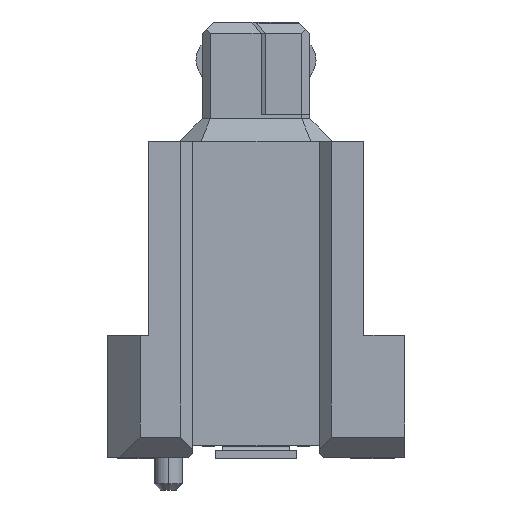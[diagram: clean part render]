
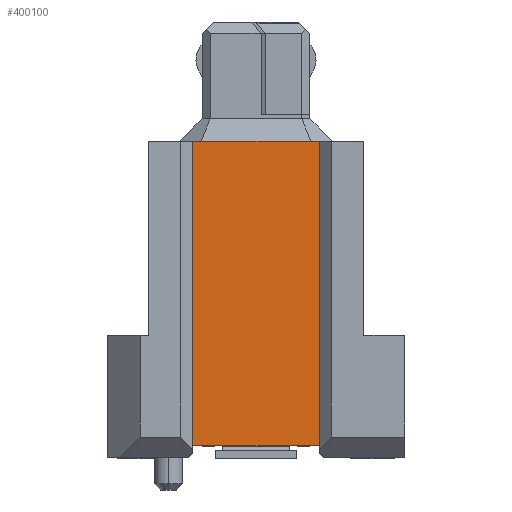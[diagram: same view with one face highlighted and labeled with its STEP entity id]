
A CAD part, left-side view. The second image highlights one B-rep face of the part: STEP entity #400100.
In plain terms, the highlighted planar face has unit normal (-1, 0, 0).
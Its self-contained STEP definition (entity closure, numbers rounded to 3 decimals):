
#195540=CARTESIAN_POINT('',(-0.032,2.41,4.2));
#195550=VERTEX_POINT('',#195540);
#195580=CARTESIAN_POINT('',(-0.032,2.41,0.));
#195590=DIRECTION('',(0.,0.,-1.));
#195600=VECTOR('',#195590,1.);
#195610=LINE('',#195580,#195600);
#195620=CARTESIAN_POINT('',(-0.032,2.41,1.1));
#195630=VERTEX_POINT('',#195620);
#195640=EDGE_CURVE('',#195550,#195630,#195610,.T.);
#382690=CARTESIAN_POINT('',(-0.032,-5.06,4.2));
#382700=VERTEX_POINT('',#382690);
#382730=CARTESIAN_POINT('',(-0.032,0.,4.2));
#382740=DIRECTION('',(0.,-1.,0.));
#382750=VECTOR('',#382740,1.);
#382760=LINE('',#382730,#382750);
#382770=EDGE_CURVE('',#195550,#382700,#382760,.T.);
#385750=CARTESIAN_POINT('',(-0.032,-5.06,1.1));
#385760=VERTEX_POINT('',#385750);
#385890=CARTESIAN_POINT('',(-0.032,-2.36,1.1));
#385900=DIRECTION('',(0.,1.,0.));
#385910=VECTOR('',#385900,1.);
#385920=LINE('',#385890,#385910);
#385930=EDGE_CURVE('',#385760,#195630,#385920,.T.);
#386040=CARTESIAN_POINT('',(-0.032,-5.06,0.));
#386050=DIRECTION('',(0.,0.,-1.));
#386060=VECTOR('',#386050,1.);
#386070=LINE('',#386040,#386060);
#386080=EDGE_CURVE('',#382700,#385760,#386070,.T.);
#399990=CARTESIAN_POINT('',(-0.032,-3.36,5.3));
#400000=DIRECTION('',(-1.,0.,0.));
#400010=DIRECTION('',(0.,1.,0.));
#400020=AXIS2_PLACEMENT_3D('',#399990,#400000,#400010);
#400030=PLANE('',#400020);
#400040=ORIENTED_EDGE('',*,*,#386080,.F.);
#400050=ORIENTED_EDGE('',*,*,#385930,.F.);
#400060=ORIENTED_EDGE('',*,*,#195640,.T.);
#400070=ORIENTED_EDGE('',*,*,#382770,.F.);
#400080=EDGE_LOOP('',(#400070,#400060,#400050,#400040));
#400090=FACE_OUTER_BOUND('',#400080,.T.);
#400100=ADVANCED_FACE('',(#400090),#400030,.T.);
